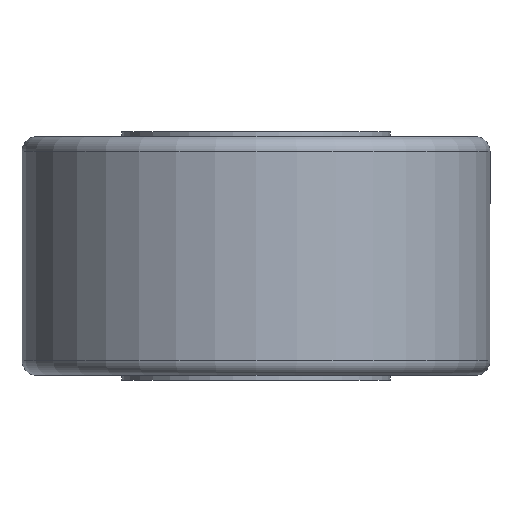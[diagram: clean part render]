
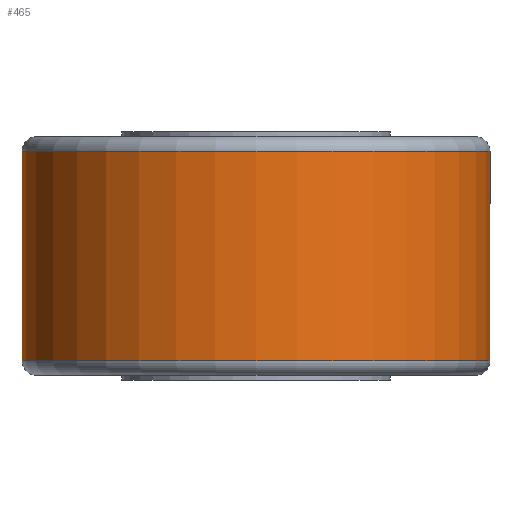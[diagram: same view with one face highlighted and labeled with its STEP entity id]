
A CAD part, front view. The second image highlights one B-rep face of the part: STEP entity #465.
In plain terms, the highlighted cylindrical face has radius 23.5 mm (diameter 47 mm), a partial arc.
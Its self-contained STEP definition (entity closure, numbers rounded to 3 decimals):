
#3 = DIRECTION ( 'NONE',  ( 0., 0., 1. ) ) ;
#6 = EDGE_LOOP ( 'NONE', ( #92, #63, #245, #471 ) ) ;
#10 = CARTESIAN_POINT ( 'NONE',  ( 0., 0., -10.5 ) ) ;
#27 = CARTESIAN_POINT ( 'NONE',  ( -23.5, 0., -12.501 ) ) ;
#37 = AXIS2_PLACEMENT_3D ( 'NONE', #98, #3, #364 ) ;
#63 = ORIENTED_EDGE ( 'NONE', *, *, #104, .T. ) ;
#77 = CARTESIAN_POINT ( 'NONE',  ( 0., 0., 10.5 ) ) ;
#81 = DIRECTION ( 'NONE',  ( 0., 0., 1. ) ) ;
#92 = ORIENTED_EDGE ( 'NONE', *, *, #186, .F. ) ;
#98 = CARTESIAN_POINT ( 'NONE',  ( 0., 0., -12.501 ) ) ;
#104 = EDGE_CURVE ( 'NONE', #211, #362, #381, .T. ) ;
#123 = DIRECTION ( 'NONE',  ( 1., 0., 0. ) ) ;
#147 = EDGE_CURVE ( 'NONE', #309, #181, #451, .T. ) ;
#172 = CARTESIAN_POINT ( 'NONE',  ( -23.5, 0., -10.5 ) ) ;
#181 = VERTEX_POINT ( 'NONE', #482 ) ;
#186 = EDGE_CURVE ( 'NONE', #211, #309, #442, .T. ) ;
#211 = VERTEX_POINT ( 'NONE', #172 ) ;
#212 = VECTOR ( 'NONE', #386, 1000. ) ;
#228 = CYLINDRICAL_SURFACE ( 'NONE', #37, 23.5 ) ;
#245 = ORIENTED_EDGE ( 'NONE', *, *, #518, .T. ) ;
#309 = VERTEX_POINT ( 'NONE', #380 ) ;
#318 = LINE ( 'NONE', #391, #212 ) ;
#321 = VECTOR ( 'NONE', #81, 1000. ) ;
#362 = VERTEX_POINT ( 'NONE', #556 ) ;
#364 = DIRECTION ( 'NONE',  ( 1., 0., 0. ) ) ;
#380 = CARTESIAN_POINT ( 'NONE',  ( -23.5, 0., 10.5 ) ) ;
#381 = CIRCLE ( 'NONE', #463, 23.5 ) ;
#386 = DIRECTION ( 'NONE',  ( 0., 0., 1. ) ) ;
#391 = CARTESIAN_POINT ( 'NONE',  ( 23.5, 0., -12.501 ) ) ;
#392 = DIRECTION ( 'NONE',  ( 0., 0., 1. ) ) ;
#442 = LINE ( 'NONE', #27, #321 ) ;
#451 = CIRCLE ( 'NONE', #497, 23.5 ) ;
#463 = AXIS2_PLACEMENT_3D ( 'NONE', #10, #553, #519 ) ;
#465 = ADVANCED_FACE ( 'NONE', ( #498 ), #228, .T. ) ;
#471 = ORIENTED_EDGE ( 'NONE', *, *, #147, .F. ) ;
#482 = CARTESIAN_POINT ( 'NONE',  ( 23.5, 0., 10.5 ) ) ;
#497 = AXIS2_PLACEMENT_3D ( 'NONE', #77, #392, #123 ) ;
#498 = FACE_OUTER_BOUND ( 'NONE', #6, .T. ) ;
#518 = EDGE_CURVE ( 'NONE', #362, #181, #318, .T. ) ;
#519 = DIRECTION ( 'NONE',  ( 1., 0., 0. ) ) ;
#553 = DIRECTION ( 'NONE',  ( 0., 0., 1. ) ) ;
#556 = CARTESIAN_POINT ( 'NONE',  ( 23.5, 0., -10.5 ) ) ;
